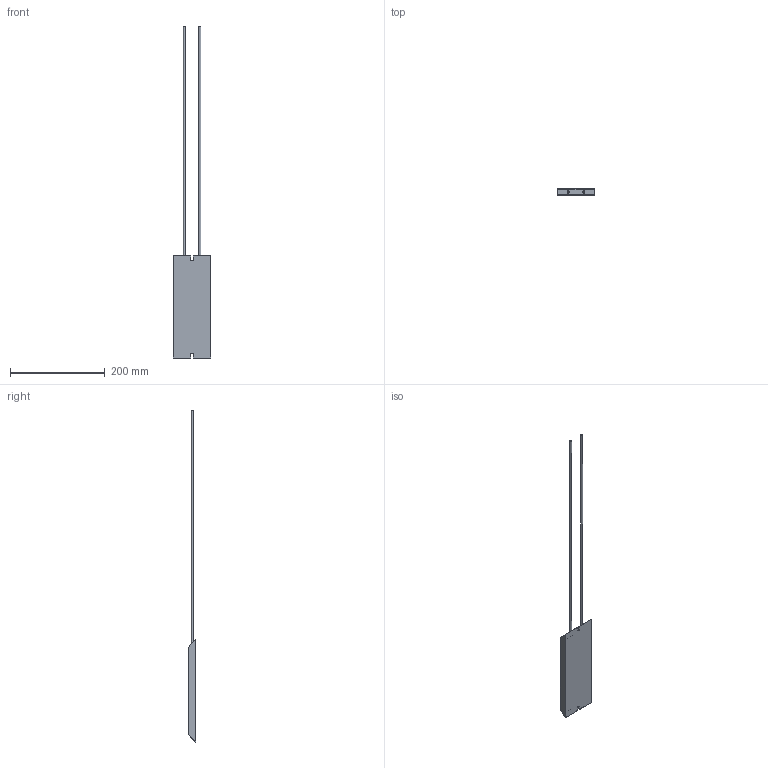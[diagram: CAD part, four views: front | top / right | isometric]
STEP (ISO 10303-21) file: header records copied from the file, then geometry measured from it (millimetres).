
FILE_DESCRIPTION(/* description */ (''),/* implementation_level */ '2;1');
FILE_NAME(/* name */ 'C:\_Vault\Dati\CATALOGO\RFD\RFDV300.stp',/* time_stamp */ '2014-03-27T18:00:56+01:00',/* author */ ('stefano'),/* organization */ (''),/* preprocessor_version */ 'ST-DEVELOPER v15.2',/* originating_system */ 'Autodesk Inventor 2014',/* authorisation */ '');
FILE_SCHEMA (('AUTOMOTIVE_DESIGN { 1 0 10303 214 3 1 1 }'));
Length unit declared in the file: millimetre
Products named in the file (1): RFDV300
Bounding box: 80 x 15 x 702.6 mm (x, y, z)
Volume: 242532 mm3; surface area: 55369.3 mm2
Topology: 1 solids, 1 shells, 28 faces, 66 edges, 44 vertices
Faces by surface type: plane 22, cylinder 6
Full cylindrical faces by diameter (mm): 2 x2, 4 x2
Entity records: 866 total; most frequent: CARTESIAN_POINT 135, DIRECTION 132, ORIENTED_EDGE 124, EDGE_CURVE 62, LINE 50, VECTOR 50, VERTEX_POINT 44, AXIS2_PLACEMENT_3D 41
